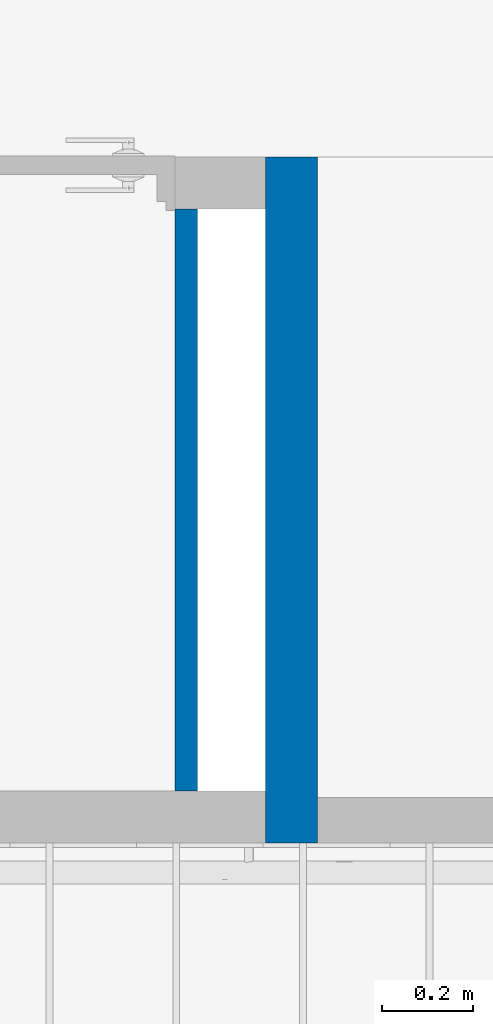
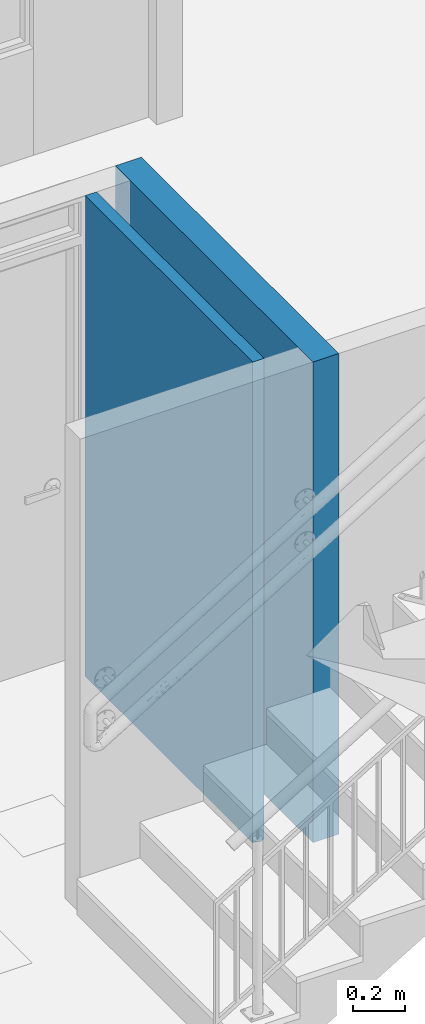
# One storey, part 21 of 48: 2 walls.
"""IFC4 building model written with IfcOpenShell, lengths in metres."""

from ifc_helpers import new_model, entity, si_unit, converted_unit, derived_unit, direction, frame, origin, place, context, subcontext, project, spatial, indexed_curve, outline, extrude, material, type_object, element, save


model = new_model("IFC4")

# Units and contexts
model_context = context("Model", 3, precision=1e-05, world=origin(), true_north=direction((6.123031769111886e-17, 1.0)))
body_context = subcontext(model_context, "Body", "Model", "MODEL_VIEW")
ifc_project = project(units=[si_unit("LENGTHUNIT", "METRE"), si_unit("AREAUNIT", "SQUARE_METRE"), si_unit("VOLUMEUNIT", "CUBIC_METRE"), converted_unit("PLANEANGLEUNIT", "DEGREE", entity("IfcRatioMeasure", 0.017453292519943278), si_unit("PLANEANGLEUNIT", "RADIAN"), dimensions=[0, 0, 0, 0, 0, 0, 0]), si_unit("MASSUNIT", "GRAM", prefix="KILO"), derived_unit("MASSDENSITYUNIT", [(si_unit("MASSUNIT", "GRAM", prefix="KILO"), 1), (si_unit("LENGTHUNIT", "METRE"), -3)]), derived_unit("IONCONCENTRATIONUNIT", [(si_unit("MASSUNIT", "GRAM", prefix="KILO"), 1), (si_unit("LENGTHUNIT", "METRE"), -3)]), derived_unit("MOMENTOFINERTIAUNIT", [(si_unit("LENGTHUNIT", "METRE"), 4)]), si_unit("TIMEUNIT", "SECOND"), si_unit("FREQUENCYUNIT", "HERTZ"), si_unit("THERMODYNAMICTEMPERATUREUNIT", "DEGREE_CELSIUS"), derived_unit("THERMALTRANSMITTANCEUNIT", [(si_unit("MASSUNIT", "GRAM", prefix="KILO"), 1), (si_unit("THERMODYNAMICTEMPERATUREUNIT", "KELVIN"), -1), (si_unit("TIMEUNIT", "SECOND"), -3)]), derived_unit("THERMALCONDUCTANCEUNIT", [(si_unit("MASSUNIT", "GRAM", prefix="KILO"), 1), (si_unit("THERMODYNAMICTEMPERATUREUNIT", "KELVIN"), -1), (si_unit("TIMEUNIT", "SECOND"), -3), (si_unit("LENGTHUNIT", "METRE"), 1)]), derived_unit("VOLUMETRICFLOWRATEUNIT", [(si_unit("LENGTHUNIT", "METRE"), 3), (si_unit("TIMEUNIT", "SECOND"), -1)]), derived_unit("MASSFLOWRATEUNIT", [(si_unit("MASSUNIT", "GRAM", prefix="KILO"), 1), (si_unit("TIMEUNIT", "SECOND"), -1)]), derived_unit("ROTATIONALFREQUENCYUNIT", [(si_unit("TIMEUNIT", "SECOND"), -1)]), si_unit("ELECTRICCURRENTUNIT", "AMPERE"), si_unit("ELECTRICVOLTAGEUNIT", "VOLT"), si_unit("POWERUNIT", "WATT"), si_unit("FORCEUNIT", "NEWTON", prefix="KILO"), si_unit("ILLUMINANCEUNIT", "LUX"), si_unit("LUMINOUSFLUXUNIT", "LUMEN"), si_unit("LUMINOUSINTENSITYUNIT", "CANDELA"), derived_unit("USERDEFINED", [(si_unit("MASSUNIT", "GRAM", prefix="KILO"), -1), (si_unit("LENGTHUNIT", "METRE"), -2), (si_unit("TIMEUNIT", "SECOND"), 3), (si_unit("LUMINOUSFLUXUNIT", "LUMEN"), 1)]), derived_unit("USERDEFINED", [(si_unit("MASSUNIT", "GRAM", prefix="KILO"), 1), (si_unit("TIMEUNIT", "SECOND"), -3), (si_unit("LENGTHUNIT", "METRE"), 3), (si_unit("ELECTRICCURRENTUNIT", "AMPERE"), -2)]), derived_unit("SOUNDPOWERUNIT", [(si_unit("MASSUNIT", "GRAM", prefix="KILO"), 1), (si_unit("TIMEUNIT", "SECOND"), -3), (si_unit("LENGTHUNIT", "METRE"), 2)]), derived_unit("SOUNDPRESSUREUNIT", [(si_unit("MASSUNIT", "GRAM", prefix="KILO"), 1), (si_unit("LENGTHUNIT", "METRE"), -1), (si_unit("TIMEUNIT", "SECOND"), -2)]), derived_unit("LINEARVELOCITYUNIT", [(si_unit("LENGTHUNIT", "METRE"), 1), (si_unit("TIMEUNIT", "SECOND"), -1)]), si_unit("PRESSUREUNIT", "PASCAL"), derived_unit("USERDEFINED", [(si_unit("MASSUNIT", "GRAM", prefix="KILO"), 1), (si_unit("LENGTHUNIT", "METRE"), -2), (si_unit("TIMEUNIT", "SECOND"), -2)]), derived_unit("LINEARFORCEUNIT", [(si_unit("MASSUNIT", "GRAM", prefix="KILO"), 1), (si_unit("TIMEUNIT", "SECOND"), -2)]), derived_unit("PLANARFORCEUNIT", [(si_unit("MASSUNIT", "GRAM", prefix="KILO"), 1), (si_unit("LENGTHUNIT", "METRE"), -1), (si_unit("TIMEUNIT", "SECOND"), -2)]), derived_unit("SPECIFICHEATCAPACITYUNIT", [(si_unit("THERMODYNAMICTEMPERATUREUNIT", "KELVIN"), -1), (si_unit("LENGTHUNIT", "METRE"), 2), (si_unit("TIMEUNIT", "SECOND"), -2)]), derived_unit("HEATINGVALUEUNIT", [(si_unit("LENGTHUNIT", "METRE"), 2), (si_unit("TIMEUNIT", "SECOND"), -2)]), derived_unit("VAPORPERMEABILITYUNIT", [(si_unit("LENGTHUNIT", "METRE"), -1), (si_unit("TIMEUNIT", "SECOND"), 1)]), derived_unit("DYNAMICVISCOSITYUNIT", [(si_unit("MASSUNIT", "GRAM", prefix="KILO"), 1), (si_unit("TIMEUNIT", "SECOND"), -1), (si_unit("LENGTHUNIT", "METRE"), -1)]), derived_unit("THERMALEXPANSIONCOEFFICIENTUNIT", [(si_unit("THERMODYNAMICTEMPERATUREUNIT", "KELVIN"), -1)]), derived_unit("MODULUSOFELASTICITYUNIT", [(si_unit("MASSUNIT", "GRAM", prefix="KILO"), 1), (si_unit("LENGTHUNIT", "METRE"), -1), (si_unit("TIMEUNIT", "SECOND"), -2)]), derived_unit("ISOTHERMALMOISTURECAPACITYUNIT", [(si_unit("LENGTHUNIT", "METRE"), 3), (si_unit("MASSUNIT", "GRAM", prefix="KILO"), -1)]), derived_unit("MOISTUREDIFFUSIVITYUNIT", [(si_unit("TIMEUNIT", "SECOND"), -1), (si_unit("LENGTHUNIT", "METRE"), 2)])], contexts=[model_context])

# Site, building, storey
site_placement = place(None, origin())
site = spatial("IfcSite", under=ifc_project, at=site_placement, Name="Default", CompositionType="ELEMENT")
building_placement = place(site_placement, origin())
building = spatial("IfcBuilding", under=site, at=building_placement, CompositionType="ELEMENT")
storey_placement = place(building_placement, frame((0.0, 0.0, 4.700000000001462)))
storey = spatial("IfcBuildingStorey", under=building, at=storey_placement, Name="Nivel 3", CompositionType="ELEMENT", Elevation=4.700000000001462)

# Walls
ifc_material_1 = material(Name="Ladrillo claro (Aire)", Category="Materials")
wall_type_1 = type_object("IfcWallType", Name="Basic Wall:B2010 - 0.115m - Muro interior en mampostería - Ladrillo", PredefinedType="STANDARD")
wall_1_placement = place(storey_placement, frame((10.6399999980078, -5.225000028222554, 0.0), z_axis=(0.0, 0.0, 1.0), x_axis=(0.0, 1.0, 0.0)))
element("IfcWall", 1, at=wall_1_placement, inside=storey, type_object=wall_type_1, material=ifc_material_1, Name="Basic Wall:B2010 - 0.115m - Muro interior en mampostería - Ladrillo", ObjectType="Basic Wall:B2010 - 0.115m - Muro interior en mampostería - Ladrillo", PredefinedType="NOTDEFINED", context=body_context, shape_type="SweptSolid", body=[
    extrude(outline(indexed_curve([(1.5150000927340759, 0.057500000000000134), (-9.033989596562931e-17, 0.057499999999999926), (9.033989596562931e-17, -0.057499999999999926), (1.5150000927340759, -0.05749999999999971), (1.5150000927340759, 0.057500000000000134)], self_intersect=False)), origin(), (0.0, 0.0, 1.0), 2.2499999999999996),
])
ifc_material_2 = material(Name="0 muro divisorio", Category="Materials")
wall_type_2 = type_object("IfcWallType", Name="Basic Wall:B2010 - 0.05m - MI No estructural- Concreto", PredefinedType="STANDARD")
wall_2_placement = place(storey_placement, frame((10.407500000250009, -5.110000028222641, 0.0), z_axis=(0.0, 0.0, 1.0), x_axis=(0.0, 1.0, 0.0)))
element("IfcWall", 2, at=wall_2_placement, inside=storey, type_object=wall_type_2, material=ifc_material_2, Name="Basic Wall:B2010 - 0.05m - MI No estructural- Concreto", ObjectType="Basic Wall:B2010 - 0.05m - MI No estructural- Concreto", PredefinedType="NOTDEFINED", context=body_context, shape_type="SweptSolid", body=[
    extrude(outline(indexed_curve([(1.2849999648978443, 0.025000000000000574), (-3.7405361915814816e-17, 0.025000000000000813), (3.7405361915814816e-17, -0.025000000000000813), (1.2849999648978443, -0.025000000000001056), (1.2849999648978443, 0.025000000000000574)], self_intersect=False)), origin(), (0.0, 0.0, 1.0), 2.2499999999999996),
])

save(model, "model.ifc")
